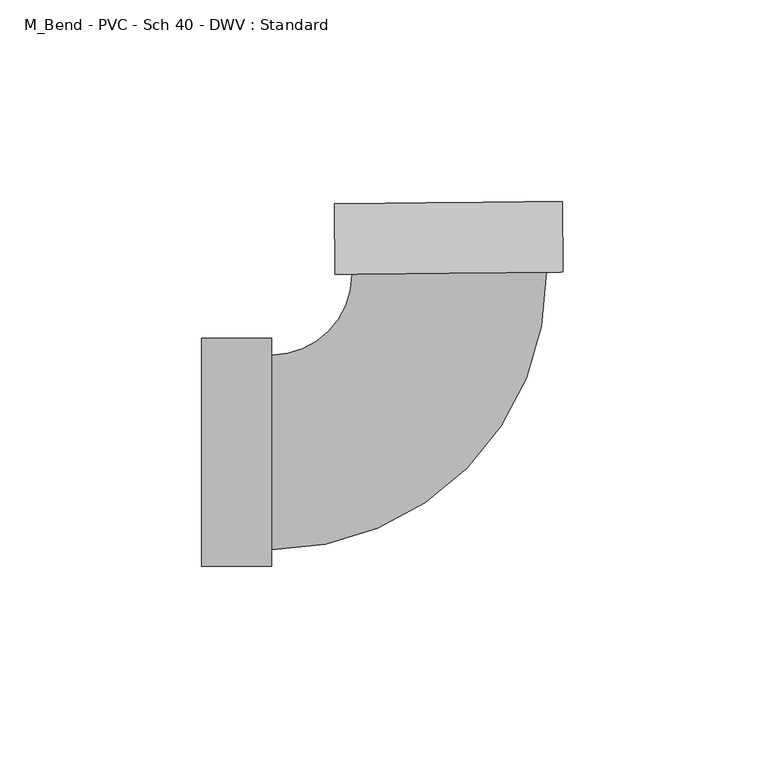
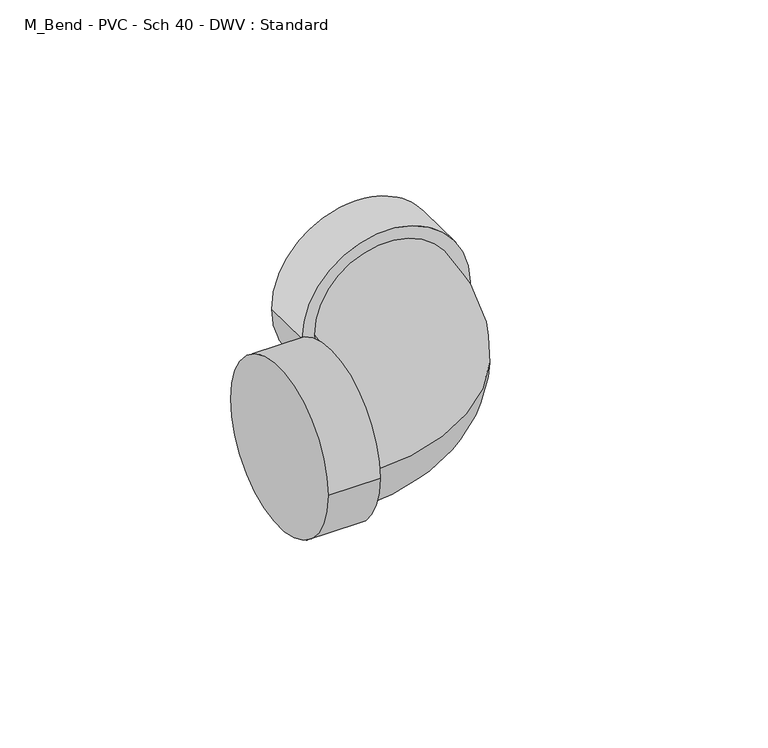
"""IFC4 building model written with IfcOpenShell, lengths in millimetres: pipe fitting geometry, M_Bend - PVC - Sch 40 - DWV : Standard."""

import ifcopenshell
import ifcopenshell.guid

model = None  # the IFC model being written
_history = None  # IfcOwnerHistory: only IFC2X3 demands one
_inside = {}  # id of a spatial element -> (the spatial element, [elements in it])
_under = {}  # id of a project, library or spatial element -> (it, [spatial elements below it])
_declared = {}  # id of a project -> (the project, [libraries it declares])
_typed = {}  # id of a type object -> (the type object, [elements of that type])
_made_of = {}  # id of a material, layer set ... -> (it, [elements and type objects made of it])


def new_model(schema):
    """Start an empty IFC model of exactly this schema.

    Asked for "IFC4X3", IfcOpenShell would pick the latest addendum, in which some entities
    have other attributes; the version numbers below select the first issue.
    IFC2X3 requires an IfcOwnerHistory on every rooted entity: one is made here for all.
    """
    global model, _history
    if schema == "IFC4X3":
        model = ifcopenshell.file(schema_version=(4, 3, 0, 0))
    else:
        model = ifcopenshell.file(schema=schema)
    _inside.clear()
    _under.clear()
    _declared.clear()
    _typed.clear()
    _made_of.clear()
    _history = None
    if model.schema == "IFC2X3":
        org = make("IfcOrganization", Name="unknown")
        user = make(
            "IfcPersonAndOrganization",
            ThePerson=make("IfcPerson", FamilyName="unknown"),
            TheOrganization=org,
        )
        app = make(
            "IfcApplication",
            ApplicationDeveloper=org,
            Version="unknown",
            ApplicationFullName="unknown",
            ApplicationIdentifier="unknown",
        )
        _history = make(
            "IfcOwnerHistory",
            OwningUser=user,
            OwningApplication=app,
            ChangeAction="ADDED",
            CreationDate=0,
        )
    return model


def make(cls, **values):
    """One entity of the class cls with the attributes given. An attribute that is None is left unset."""
    return model.create_entity(
        cls, **{name: value for name, value in values.items() if value is not None}
    )


def rooted(cls, **values):
    """An entity with a GlobalId (a new one), such as an element, a storey or a relation."""
    return make(cls, GlobalId=ifcopenshell.guid.new(), OwnerHistory=_history, **values)


def si_unit(unit_type, name, prefix=None):
    """IfcSIUnit, for example si_unit("LENGTHUNIT", "METRE", prefix="MILLI")."""
    return make("IfcSIUnit", UnitType=unit_type, Prefix=prefix, Name=name)


def assignment(units):
    """IfcUnitAssignment: the units of a project."""
    return None if units is None else make("IfcUnitAssignment", Units=units)


def point(xyz):
    """IfcCartesianPoint."""
    return None if xyz is None else make("IfcCartesianPoint", Coordinates=xyz)


def direction(xyz):
    """IfcDirection."""
    return None if xyz is None else make("IfcDirection", DirectionRatios=xyz)


def frame(location, z_axis=None, x_axis=None):
    """IfcAxis2Placement3D, a coordinate frame: its origin and axes. An axis left out is left unset."""
    return make(
        "IfcAxis2Placement3D",
        Location=point(location),
        Axis=direction(z_axis),
        RefDirection=direction(x_axis),
    )


def origin():
    """The frame at (0, 0, 0) with its axes left unset."""
    return frame((0.0, 0.0, 0.0))


def place(relative_to, where):
    """IfcLocalPlacement: puts the frame where relative to a parent placement (None: the world)."""
    return make(
        "IfcLocalPlacement", PlacementRelTo=relative_to, RelativePlacement=where
    )


def context(
    kind, dimensions, precision=None, world=None, true_north=None, identifier=None
):
    """IfcGeometricRepresentationContext, for example the 3D "Model" context."""
    return make(
        "IfcGeometricRepresentationContext",
        ContextIdentifier=identifier,
        ContextType=kind,
        CoordinateSpaceDimension=dimensions,
        Precision=precision,
        WorldCoordinateSystem=world,
        TrueNorth=true_north,
    )


def project(units=None, contexts=None):
    """IfcProject with its units and contexts."""
    return rooted(
        "IfcProject",
        Name="project",
        RepresentationContexts=contexts,
        UnitsInContext=assignment(units),
    )


def spatial(cls, under=None, at=None, **own):
    """A site, building, storey or space (cls), placed at a placement, below another one or the project."""
    s = rooted(cls, ObjectPlacement=at, **own)
    if under is not None:
        _under.setdefault(under.id(), (under, []))[1].append(s)
    return s


def circle_curve(where, radius):
    """IfcCircle in the frame where."""
    return make("IfcCircle", Position=where, Radius=radius)


def ellipse_curve(where, semi_axis1, semi_axis2):
    """IfcEllipse in the frame where."""
    return make(
        "IfcEllipse", Position=where, SemiAxis1=semi_axis1, SemiAxis2=semi_axis2
    )


def trimmed(basis, trim1, trim2, sense, master):
    """IfcTrimmedCurve: the piece of a basis curve between two trims."""
    return make(
        "IfcTrimmedCurve",
        BasisCurve=basis,
        Trim1=trim1,
        Trim2=trim2,
        SenseAgreement=sense,
        MasterRepresentation=master,
    )


def shape(context_of_items, identifier, shape_type, items):
    """IfcShapeRepresentation: the items that make up one representation, for example the "Body"."""
    return make(
        "IfcShapeRepresentation",
        ContextOfItems=context_of_items,
        RepresentationIdentifier=identifier,
        RepresentationType=shape_type,
        Items=items,
    )


def source(mapping_origin, context_of_items, identifier, shape_type, items):
    """IfcRepresentationMap: a shape defined once, which mapped items show again and again."""
    return make(
        "IfcRepresentationMap",
        MappingOrigin=mapping_origin,
        MappedRepresentation=shape(context_of_items, identifier, shape_type, items),
    )


def transform(
    local_origin,
    x_axis=None,
    y_axis=None,
    z_axis=None,
    scale=None,
    scale2=None,
    scale3=None,
    uniform=True,
):
    """IfcCartesianTransformationOperator3D, or its non-uniform kind. x_axis, y_axis, z_axis: its Axis1, 2, 3."""
    if uniform:
        return make(
            "IfcCartesianTransformationOperator3D",
            Axis1=direction(x_axis),
            Axis2=direction(y_axis),
            LocalOrigin=point(local_origin),
            Scale=scale,
            Axis3=direction(z_axis),
        )
    return make(
        "IfcCartesianTransformationOperator3DnonUniform",
        Axis1=direction(x_axis),
        Axis2=direction(y_axis),
        LocalOrigin=point(local_origin),
        Scale=scale,
        Axis3=direction(z_axis),
        Scale2=scale2,
        Scale3=scale3,
    )


def mapped(mapping_source, mapping_target):
    """IfcMappedItem: shows the shape of a source again, moved by a transform."""
    return make(
        "IfcMappedItem", MappingSource=mapping_source, MappingTarget=mapping_target
    )


def made_of(thing, what):
    """Note that an element or type object is made of a material, layer set ...; save() writes the relation."""
    if what is not None:
        _made_of.setdefault(what.id(), (what, []))[1].append(thing)
    return thing


def element(
    cls,
    number,
    at=None,
    inside=None,
    cuts=None,
    type_object=None,
    material=None,
    context=None,
    identifier="Body",
    shape_type=None,
    held_by="IfcProductDefinitionShape",
    body=None,
    shapes=None,
    **own,
):
    """One element of the class cls, such as IfcWall. Its Tag is "e" and its number.

    at: its placement. inside: the storey or other place that contains it. cuts: it is an
    opening in that element (IfcRelVoidsElement). A single representation is given by context,
    identifier, shape_type and body (its items); several are given by shapes. held_by: the class
    of the entity that holds the representations. save() writes the other relations.
    """
    e = rooted(cls, Tag="e%d" % number, ObjectPlacement=at, **own)
    if body is not None:
        shapes = [shape(context, identifier, shape_type, body)]
    if shapes is not None:
        e.Representation = make(held_by, Representations=shapes)
    if inside is not None:
        _inside.setdefault(inside.id(), (inside, []))[1].append(e)
    if cuts is not None:
        rooted(
            "IfcRelVoidsElement", RelatingBuildingElement=cuts, RelatedOpeningElement=e
        )
    if type_object is not None:
        _typed.setdefault(type_object.id(), (type_object, []))[1].append(e)
    return made_of(e, material)


def aggregate(whole, parts):
    """IfcRelAggregates: a whole, such as a stair, and the parts it consists of."""
    return rooted("IfcRelAggregates", RelatingObject=whole, RelatedObjects=parts)


def save(model, path):
    """Write the relations noted so far, then the file.

    IfcRelAggregates (storeys below a building ...), IfcRelContainedInSpatialStructure (elements
    in a storey), IfcRelDefinesByType, IfcRelAssociatesMaterial and IfcRelDeclares: one each for
    every whole, place, type object, material and project.
    """
    for whole, parts in _under.values():
        aggregate(whole, parts)
    for where, things in _inside.values():
        rooted(
            "IfcRelContainedInSpatialStructure",
            RelatedElements=things,
            RelatingStructure=where,
        )
    for kind, things in _typed.values():
        rooted("IfcRelDefinesByType", RelatedObjects=things, RelatingType=kind)
    for what, things in _made_of.values():
        rooted("IfcRelAssociatesMaterial", RelatedObjects=things, RelatingMaterial=what)
    for by, libraries in _declared.values():
        rooted("IfcRelDeclares", RelatingContext=by, RelatedDefinitions=libraries)
    model.write(path)


def plane_surface(at):
    """IfcPlane: the flat surface through the origin of the frame at, square to its z axis."""
    return make("IfcPlane", Position=at)


def cylinder_surface(at, radius):
    """IfcCylindricalSurface: all points at the distance radius from the z axis of the frame at."""
    return make("IfcCylindricalSurface", Position=at, Radius=radius)


def revolved_surface(curve, axis_point, axis_direction):
    """IfcSurfaceOfRevolution: the curve turned about the line through axis_point along axis_direction."""
    return make(
        "IfcSurfaceOfRevolution",
        SweptCurve=make("IfcArbitraryOpenProfileDef", ProfileType="CURVE", Curve=curve),
        AxisPosition=make("IfcAxis1Placement", Location=point(axis_point), Axis=direction(axis_direction)),
    )


def advanced_brep(points, edges, surfaces, faces):
    """IfcAdvancedBrep: a solid bounded by faces that lie on surfaces and meet in shared edges.

    An edge is (start, end): straight between two places in points (the first is 0);
    or (start, end, curve); or (start, end, curve, False) where it runs against its curve.
    A face is (place in surfaces, loops), or (place, loops, False) where it looks against
    its surface's normal. A loop lists edges by number (the first is 1), with a minus sign
    where the edge is run from its end to its start. The first loop is the outer one.
    """
    corners = [point(p) for p in points]
    vertices = [make("IfcVertexPoint", VertexGeometry=c) for c in corners]
    made = []
    for start, end, *more in edges:
        made.append(
            make(
                "IfcEdgeCurve",
                EdgeStart=vertices[start],
                EdgeEnd=vertices[end],
                EdgeGeometry=more[0] if more else make("IfcPolyline", Points=[corners[start], corners[end]]),
                SameSense=more[1] if len(more) > 1 else True,
            )
        )
    hull = []
    for where, loops, *sense in faces:
        bounds = []
        for j, loop in enumerate(loops):
            ring = [make("IfcOrientedEdge", EdgeElement=made[abs(k) - 1], Orientation=k > 0) for k in loop]
            bounds.append(
                make(
                    "IfcFaceOuterBound" if j == 0 else "IfcFaceBound",
                    Bound=make("IfcEdgeLoop", EdgeList=ring),
                    Orientation=True,
                )
            )
        hull.append(make("IfcAdvancedFace", Bounds=bounds, FaceSurface=surfaces[where], SameSense=sense[0] if sense else True))
    return make("IfcAdvancedBrep", Outer=make("IfcClosedShell", CfsFaces=hull))


def m_bend_pvc_sch_40_dwv_standard_776e50c4(model_context):
    return source(origin(), model_context, "Body", "AdvancedBrep", [
        advanced_brep(
        [(-61.8998, -28.2829, 0.0), (-61.8998, 28.2829, 0.0), (-44.45, -28.2829, 0.0), (-44.45, 28.2829, 0.0), (-44.45, -24.13, 0.0), (-44.45, 24.13, 0.0), (-24.5732714, 44.2064897, 0.0), (23.6843158, 44.6890656, 0.0), (27.8370082, 44.7305925, 0.0), (-28.7259637, 44.1649628, 0.0), (27.6625189, 62.1795201, 0.0), (-28.900453, 61.6138904, 0.0)],
        [
            (0, 1, circle_curve(frame((-61.8998, 0.0, 0.0), z_axis=(-1.0, 0.0, 0.0), x_axis=(0.0, 1.0, 0.0)), 28.2829)),
            (1, 0, circle_curve(frame((-61.8998, 0.0, 0.0), z_axis=(-1.0, 0.0, 0.0), x_axis=(0.0, 1.0, 0.0)), 28.2829)),
            (2, 3, circle_curve(frame((-44.45, 0.0, 0.0), z_axis=(1.0, 0.0, 0.0), x_axis=(0.0, 1.0, 0.0)), 28.2829)),
            (3, 2, circle_curve(frame((-44.45, 0.0, 0.0), z_axis=(1.0, 0.0, 0.0), x_axis=(0.0, 1.0, 0.0)), 28.2829)),
            (4, 5, circle_curve(frame((-44.45, 0.0, 0.0), z_axis=(-1.0, 0.0, 0.0), x_axis=(0.0, 1.0, 0.0)), 24.13)),
            (5, 4, circle_curve(frame((-44.45, 0.0, 0.0), z_axis=(-1.0, 0.0, 0.0), x_axis=(0.0, 1.0, 0.0)), 24.13)),
            (0, 2),
            (3, 1),
            (6, 5, circle_curve(frame((-44.45, 44.0077224, 0.0), z_axis=(0.0, 0.0, -1.0), x_axis=(0.0, -1.0, 0.0)), 19.8777224)),
            (4, 7, circle_curve(frame((-44.45, 44.0077224, 0.0), z_axis=(0.0, 0.0, 1.0), x_axis=(0.0, -1.0, 0.0)), 68.1377224)),
            (7, 6, circle_curve(frame((-0.4444778, 44.4477777, 0.0), z_axis=(0.009999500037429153, -0.9999500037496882, 0.0), x_axis=(-0.9999500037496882, -0.009999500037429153, 0.0)), 24.13)),
            (6, 7, circle_curve(frame((-0.4444778, 44.4477777, 0.0), z_axis=(0.009999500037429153, -0.9999500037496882, 0.0), x_axis=(-0.9999500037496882, -0.009999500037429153, 0.0)), 24.13)),
            (8, 9, circle_curve(frame((-0.4444778, 44.4477777, 0.0), z_axis=(0.009999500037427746, -0.9999500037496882, 0.0), x_axis=(-0.9999500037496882, -0.009999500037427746, 0.0)), 28.2829)),
            (9, 8, circle_curve(frame((-0.4444778, 44.4477777, 0.0), z_axis=(0.009999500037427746, -0.9999500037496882, 0.0), x_axis=(-0.9999500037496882, -0.009999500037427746, 0.0)), 28.2829)),
            (10, 11, circle_curve(frame((-0.6189671, 61.8967052, 0.0), z_axis=(-0.009999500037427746, 0.9999500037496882, 0.0), x_axis=(-0.9999500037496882, -0.009999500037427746, 0.0)), 28.2829)),
            (11, 10, circle_curve(frame((-0.6189671, 61.8967052, 0.0), z_axis=(-0.009999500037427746, 0.9999500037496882, 0.0), x_axis=(-0.9999500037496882, -0.009999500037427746, 0.0)), 28.2829)),
            (8, 10),
            (11, 9),
        ],
        [
            plane_surface(frame((-61.8998, 0.0, 0.0), z_axis=(-1.0, 0.0, 0.0), x_axis=(0.0, 0.0, 1.0))),
            plane_surface(frame((-44.45, 0.0, 0.0), z_axis=(1.0, 0.0, 0.0), x_axis=(0.0, 0.0, 1.0))),
            cylinder_surface(frame((-61.8998, 0.0, 0.0), z_axis=(-1.0, 0.0, 0.0), x_axis=(0.0, 1.0, 0.0)), 28.2829),
            revolved_surface(trimmed(ellipse_curve(frame((-44.45, 0.0, 0.0), z_axis=(-1.0, 0.0, 0.0), x_axis=(0.0, 1.0, 0.0)), 24.13, 24.13), [point((-44.45, -24.13, 0.0))], [point((-44.45, 24.13, 0.0))], True, "CARTESIAN"), (-44.45, 44.0077224, 0.0), (0.0, 0.0, 1.0)),
            revolved_surface(trimmed(ellipse_curve(frame((-44.45, 0.0, 0.0), z_axis=(-1.0, 0.0, 0.0), x_axis=(0.0, 1.0, 0.0)), 24.13, 24.13), [point((-44.45, 24.13, 0.0))], [point((-44.45, -24.13, 0.0))], True, "CARTESIAN"), (-44.45, 44.0077224, 0.0), (0.0, 0.0, 1.0)),
            plane_surface(frame((-0.4444778, 44.4477777, 0.0), z_axis=(0.009999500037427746, -0.9999500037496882, 0.0), x_axis=(0.0, 0.0, 1.0))),
            plane_surface(frame((-0.6189671, 61.8967052, 0.0), z_axis=(-0.009999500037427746, 0.9999500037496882, 0.0), x_axis=(0.0, 0.0, 1.0))),
            cylinder_surface(frame((-0.4444778, 44.4477777, 0.0), z_axis=(0.009999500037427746, -0.9999500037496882, 0.0), x_axis=(-0.9999500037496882, -0.009999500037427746, 0.0)), 28.2829),
        ],
        [
            (0, [[1, 2]]),
            (1, [[3, 4], [5, 6]]),
            (2, [[-1, 7, -4, 8]]),
            (2, [[-2, -8, -3, -7]]),
            (3, [[9, -5, 10, 11]]),
            (4, [[-9, 12, -10, -6]]),
            (5, [[13, 14], [-11, -12]]),
            (6, [[15, 16]]),
            (7, [[-13, 17, -16, 18]]),
            (7, [[-14, -18, -15, -17]]),
        ],
    ),
    ])


if __name__ == "__main__":
    model = new_model("IFC4")
    model_context = context("Model", 3, world=origin())
    ifc_project = project(units=[si_unit("LENGTHUNIT", "METRE", prefix="MILLI")], contexts=[model_context])
    site = spatial("IfcSite", under=ifc_project)
    building = spatial("IfcBuilding", under=site)
    placement = place(None, origin())
    m_bend_pvc_sch_40_dwv_standard_shape = m_bend_pvc_sch_40_dwv_standard_776e50c4(model_context)
    element("IfcPipeFitting", 1, ObjectType="M_Bend - PVC - Sch 40 - DWV : Standard", at=placement, inside=building, context=model_context, shape_type="MappedRepresentation", body=[
        mapped(m_bend_pvc_sch_40_dwv_standard_shape, transform((0.0, 0.0, 0.0), x_axis=(1.0, 0.0, 0.0), y_axis=(0.0, 1.0, 0.0), z_axis=(0.0, 0.0, 1.0))),
    ])
    save(model, "model.ifc")
